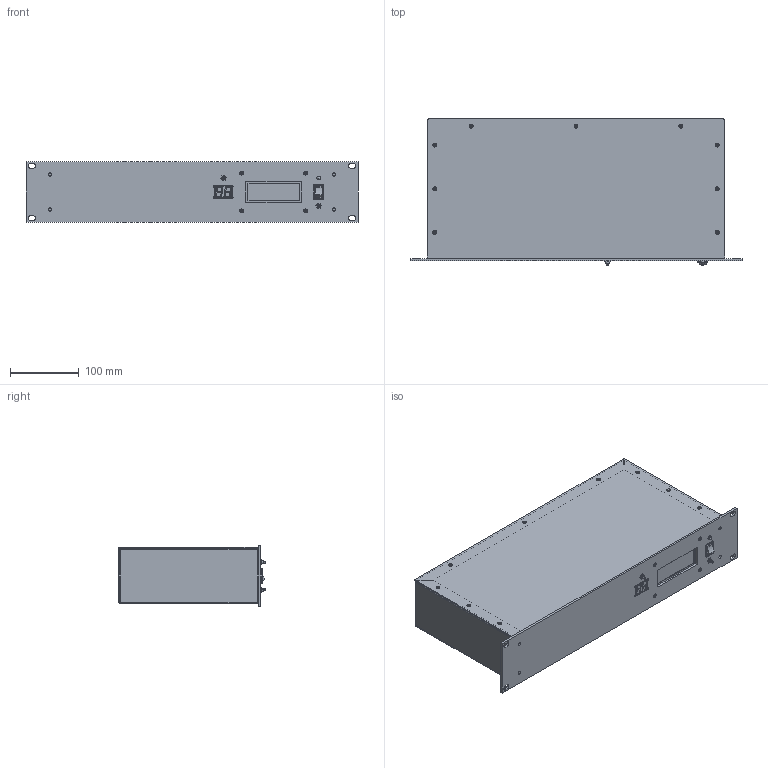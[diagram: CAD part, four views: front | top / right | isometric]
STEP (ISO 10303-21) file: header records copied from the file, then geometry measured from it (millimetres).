
FILE_DESCRIPTION (( 'STEP AP214' ), '1' );
FILE_NAME ('RMx (RACK MOUNT CASE) (CATALOG MODEL).STEP', '2025-05-12T18:16:03', ( '' ), ( '' ), 'SwSTEP 2.0', 'SolidWorks 2023', '' );
FILE_SCHEMA (( 'AUTOMOTIVE_DESIGN' ));
Length unit declared in the file: inch
Products named in the file (1): RMx (RACK MOUNT CASE) (CATALOG MODEL)
Bounding box: 482.6 x 214.1 x 87.88 mm (x, y, z)
Volume: 522507.3 mm3; surface area: 627720.3 mm2
Topology: 16 solids, 16 shells, 1169 faces, 3045 edges, 1979 vertices
Faces by surface type: plane 643, cylinder 471, cone 42, sphere 5, bspline 4, torus 4
Entity records: 48050 total; most frequent: CARTESIAN_POINT 6469, DIRECTION 6297, ORIENTED_EDGE 6076, EDGE_CURVE 3038, AXIS2_PLACEMENT_3D 2125, VECTOR 2047, LINE 2047, VERTEX_POINT 1977
